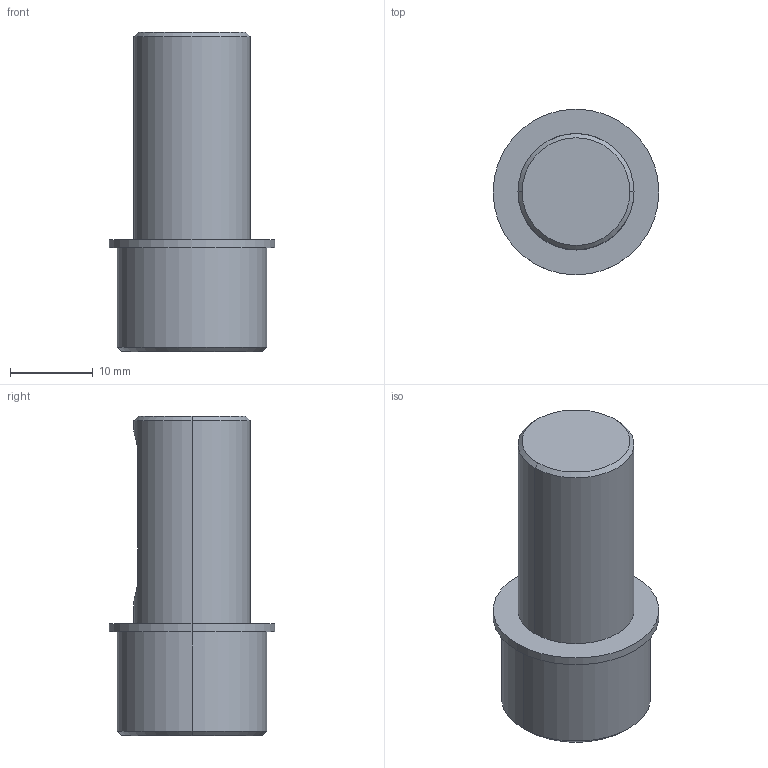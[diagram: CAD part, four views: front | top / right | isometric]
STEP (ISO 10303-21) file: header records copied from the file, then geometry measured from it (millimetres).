
FILE_DESCRIPTION((''),'2;1');
FILE_NAME('SJ-46','2017-03-31T',('Owner'),(''),'PRO/ENGINEER BY PARAMETRIC TECHNOLOGY CORPORATION, 2009440','PRO/ENGINEER BY PARAMETRIC TECHNOLOGY CORPORATION, 2009440','');
FILE_SCHEMA(('CONFIG_CONTROL_DESIGN'));
Length unit declared in the file: millimetre
Products named in the file (1): SJ-46
Bounding box: 20 x 20 x 38.5 mm (x, y, z)
Volume: 7060.9 mm3; surface area: 2585.1 mm2
Topology: 1 solids, 1 shells, 19 faces, 38 edges, 24 vertices
Faces by surface type: cylinder 8, plane 7, cone 4
Entity records: 565 total; most frequent: CARTESIAN_POINT 114, DIRECTION 92, ORIENTED_EDGE 76, EDGE_CURVE 38, AXIS2_PLACEMENT_3D 37, VERTEX_POINT 24, EDGE_LOOP 22, FACE_OUTER_BOUND 19
